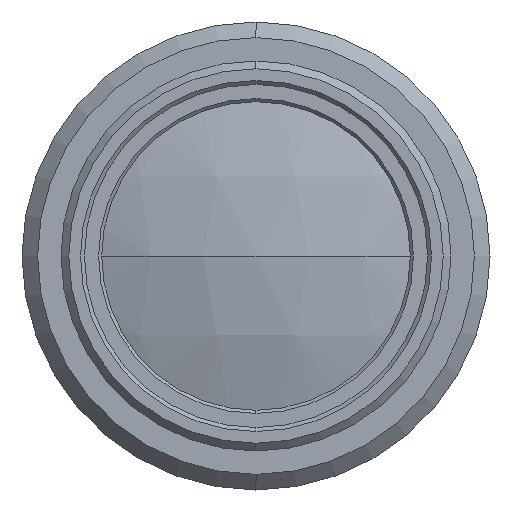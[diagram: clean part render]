
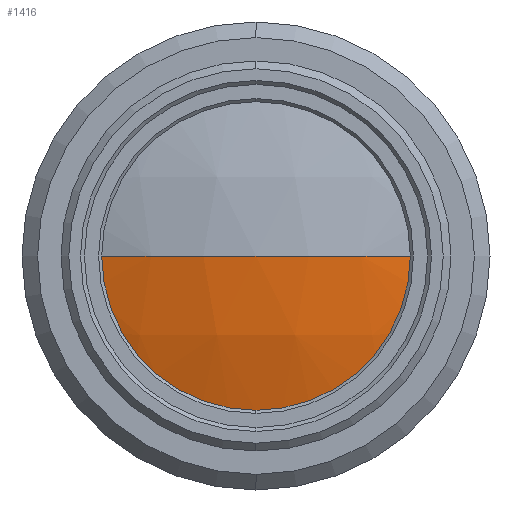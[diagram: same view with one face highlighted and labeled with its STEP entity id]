
A CAD part, left-side view. The second image highlights one B-rep face of the part: STEP entity #1416.
In plain terms, the highlighted spherical face has radius 31.74 mm.
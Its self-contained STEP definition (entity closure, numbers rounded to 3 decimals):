
#182 = DIRECTION ( 'NONE',  ( 0., 0., 1. ) ) ;
#206 = FACE_OUTER_BOUND ( 'NONE', #1744, .T. ) ;
#269 = EDGE_CURVE ( 'NONE', #1785, #2226, #366, .T. ) ;
#366 = CIRCLE ( 'NONE', #610, 9.99 ) ;
#391 = DIRECTION ( 'NONE',  ( 0., 1., 0. ) ) ;
#467 = EDGE_CURVE ( 'NONE', #2226, #1732, #1611, .T. ) ;
#588 = ORIENTED_EDGE ( 'NONE', *, *, #2291, .T. ) ;
#589 = CARTESIAN_POINT ( 'NONE',  ( 35.42, 0., 0. ) ) ;
#610 = AXIS2_PLACEMENT_3D ( 'NONE', #1724, #1524, #182 ) ;
#625 = ORIENTED_EDGE ( 'NONE', *, *, #467, .T. ) ;
#699 = DIRECTION ( 'NONE',  ( 0., 0., -1. ) ) ;
#712 = DIRECTION ( 'NONE',  ( 0., 1., 0. ) ) ;
#717 = SPHERICAL_SURFACE ( 'NONE', #2484, 31.74 ) ;
#868 = DIRECTION ( 'NONE',  ( -1., 0., 0. ) ) ;
#882 = EDGE_CURVE ( 'NONE', #979, #1732, #2266, .T. ) ;
#898 = CARTESIAN_POINT ( 'NONE',  ( 35.42, 0., 0. ) ) ;
#979 = VERTEX_POINT ( 'NONE', #1105 ) ;
#1085 = DIRECTION ( 'NONE',  ( 1., 0., 0. ) ) ;
#1105 = CARTESIAN_POINT ( 'NONE',  ( 5.294, 9.99, 0. ) ) ;
#1158 = ORIENTED_EDGE ( 'NONE', *, *, #882, .F. ) ;
#1416 = ADVANCED_FACE ( 'NONE', ( #206 ), #717, .T. ) ;
#1524 = DIRECTION ( 'NONE',  ( -1., 0., 0. ) ) ;
#1542 = ORIENTED_EDGE ( 'NONE', *, *, #269, .T. ) ;
#1611 = CIRCLE ( 'NONE', #2283, 31.74 ) ;
#1670 = CARTESIAN_POINT ( 'NONE',  ( 35.42, 0., 0. ) ) ;
#1724 = CARTESIAN_POINT ( 'NONE',  ( 5.294, 0., 0. ) ) ;
#1732 = VERTEX_POINT ( 'NONE', #1860 ) ;
#1744 = EDGE_LOOP ( 'NONE', ( #1542, #625, #1158, #588 ) ) ;
#1747 = DIRECTION ( 'NONE',  ( 0., 0., -1. ) ) ;
#1785 = VERTEX_POINT ( 'NONE', #2461 ) ;
#1860 = CARTESIAN_POINT ( 'NONE',  ( 3.68, 0., 0. ) ) ;
#1998 = CARTESIAN_POINT ( 'NONE',  ( 5.294, 0., 0. ) ) ;
#2037 = CIRCLE ( 'NONE', #2161, 9.99 ) ;
#2161 = AXIS2_PLACEMENT_3D ( 'NONE', #1998, #868, #2191 ) ;
#2191 = DIRECTION ( 'NONE',  ( 0., 0., 1. ) ) ;
#2223 = DIRECTION ( 'NONE',  ( 0., 0., 1. ) ) ;
#2226 = VERTEX_POINT ( 'NONE', #2286 ) ;
#2266 = CIRCLE ( 'NONE', #2443, 31.74 ) ;
#2283 = AXIS2_PLACEMENT_3D ( 'NONE', #589, #1747, #391 ) ;
#2286 = CARTESIAN_POINT ( 'NONE',  ( 5.294, -9.99, 0. ) ) ;
#2291 = EDGE_CURVE ( 'NONE', #979, #1785, #2037, .T. ) ;
#2443 = AXIS2_PLACEMENT_3D ( 'NONE', #898, #2223, #1085 ) ;
#2461 = CARTESIAN_POINT ( 'NONE',  ( 5.294, 0., -9.99 ) ) ;
#2484 = AXIS2_PLACEMENT_3D ( 'NONE', #1670, #699, #712 ) ;
